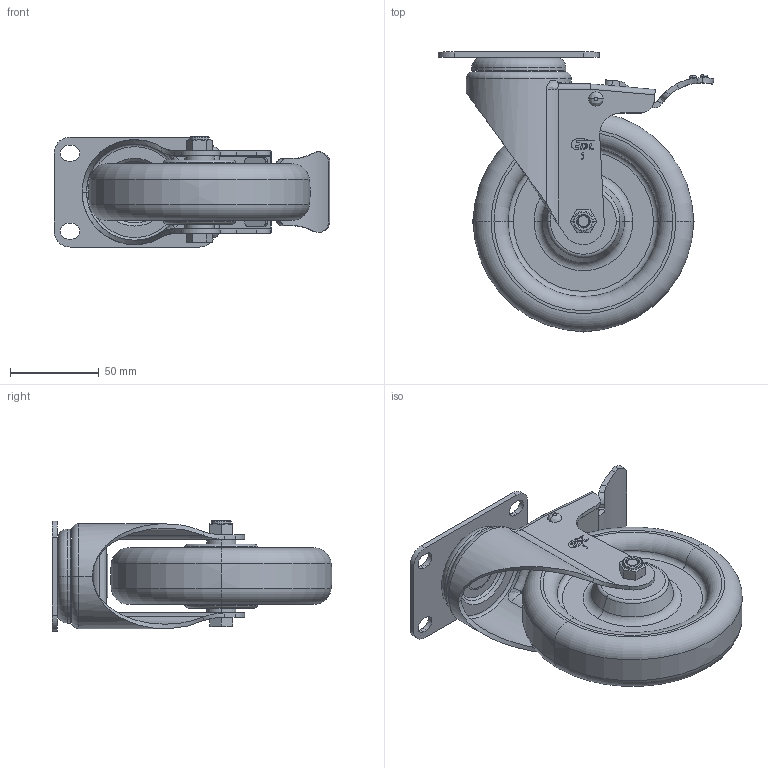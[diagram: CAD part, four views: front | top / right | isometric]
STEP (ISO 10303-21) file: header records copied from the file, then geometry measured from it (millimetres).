
FILE_DESCRIPTION((''),'2;1');
FILE_NAME('S54725L_ASM','2021-08-10T',('lenovo'),(''),'PRO/ENGINEER BY PARAMETRIC TECHNOLOGY CORPORATION, 2010280','PRO/ENGINEER BY PARAMETRIC TECHNOLOGY CORPORATION, 2010280','');
FILE_SCHEMA(('CONFIG_CONTROL_DESIGN'));
Length unit declared in the file: millimetre
Products named in the file (7): S545-12; S540-01; 505-986; S540-33; S540-34; S540-14; S54725L_ASM
Assembly tree (6 placements, depth 2):
  S54725L_ASM
    S545-12
    S540-01
    505-986
    S540-33
    S540-34
    S540-14
Bounding box: 155.64 x 157.95 x 62.15 mm (x, y, z)
Volume: 370367.5 mm3; surface area: 93315.5 mm2
Topology: 10 solids, 10 shells, 366 faces, 876 edges, 546 vertices
Faces by surface type: plane 168, cylinder 98, torus 38, cone 34, bspline 28
Entity records: 13228 total; most frequent: CARTESIAN_POINT 4609, DIRECTION 1768, ORIENTED_EDGE 1752, EDGE_CURVE 876, AXIS2_PLACEMENT_3D 641, VERTEX_POINT 546, VECTOR 486, LINE 486
